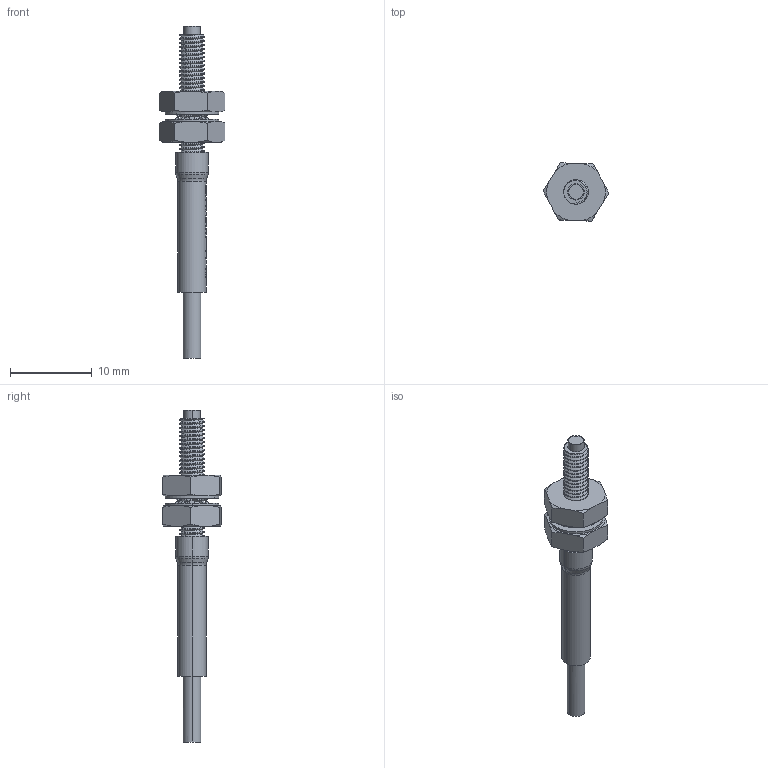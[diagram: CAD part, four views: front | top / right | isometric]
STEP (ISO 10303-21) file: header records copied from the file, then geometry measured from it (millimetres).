
FILE_DESCRIPTION (( 'STEP AP214' ), '1' );
FILE_NAME ('PT-32.STEP', '2015-09-24T07:56:11', ( '' ), ( '' ), 'SwSTEP 2.0', 'SolidWorks 2013', '' );
FILE_SCHEMA (( 'AUTOMOTIVE_DESIGN' ));
Length unit declared in the file: millimetre
Products named in the file (1): PT-32
Bounding box: 8.08 x 7.15 x 40.69 mm (x, y, z)
Volume: 453.1 mm3; surface area: 1079.5 mm2
Topology: 4 solids, 4 shells, 415 faces, 1162 edges, 764 vertices
Faces by surface type: plane 235, cylinder 117, cone 32, bspline 23, torus 8
Entity records: 19846 total; most frequent: CARTESIAN_POINT 7754, ORIENTED_EDGE 2324, DIRECTION 1840, EDGE_CURVE 1162, VERTEX_POINT 764, LINE 664, VECTOR 664, AXIS2_PLACEMENT_3D 588
